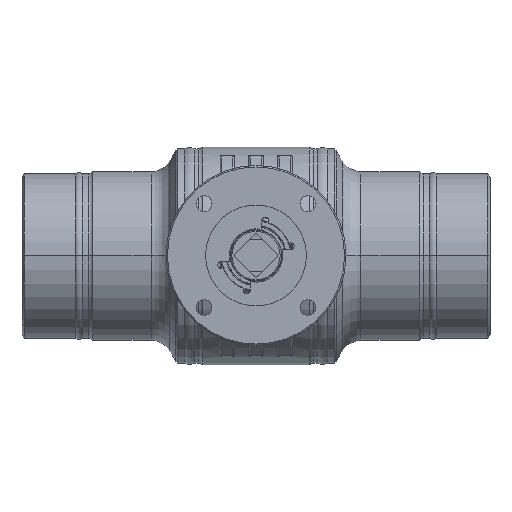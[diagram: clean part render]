
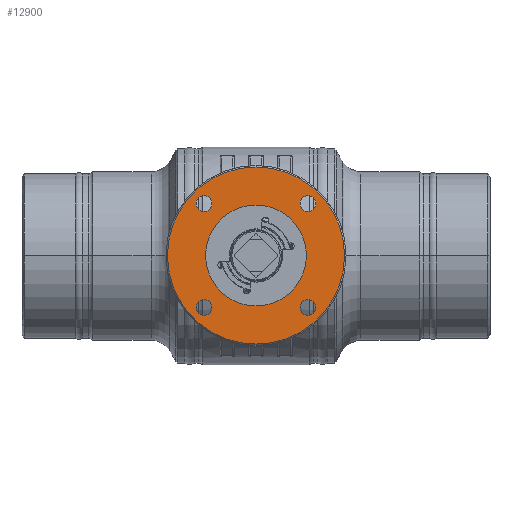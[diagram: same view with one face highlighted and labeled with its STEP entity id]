
A CAD part, top view. The second image highlights one B-rep face of the part: STEP entity #12900.
In plain terms, the highlighted planar face has unit normal (0, 0, 1).
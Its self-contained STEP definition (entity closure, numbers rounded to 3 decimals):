
#2733=CARTESIAN_POINT('',(0.,0.,189.));
#2734=DIRECTION('',(0.,0.,1.));
#2735=DIRECTION('',(0.,1.,0.));
#2736=AXIS2_PLACEMENT_3D('',#2733,#2734,#2735);
#2742=CARTESIAN_POINT('',(0.,0.,189.));
#2743=DIRECTION('',(0.,0.,1.));
#2744=DIRECTION('',(0.,-1.,0.));
#2745=AXIS2_PLACEMENT_3D('',#2742,#2743,#2744);
#2760=CARTESIAN_POINT('',(36.062,-36.062,189.));
#2761=DIRECTION('',(0.,0.,1.));
#2762=DIRECTION('',(0.,-1.,0.));
#2763=AXIS2_PLACEMENT_3D('',#2760,#2761,#2762);
#2765=CARTESIAN_POINT('',(36.062,-36.062,189.));
#2766=DIRECTION('',(0.,0.,1.));
#2767=DIRECTION('',(0.,1.,0.));
#2768=AXIS2_PLACEMENT_3D('',#2765,#2766,#2767);
#2770=CARTESIAN_POINT('',(-36.062,-36.062,189.));
#2771=DIRECTION('',(0.,0.,1.));
#2772=DIRECTION('',(0.,-1.,0.));
#2773=AXIS2_PLACEMENT_3D('',#2770,#2771,#2772);
#2775=CARTESIAN_POINT('',(-36.062,-36.062,189.));
#2776=DIRECTION('',(0.,0.,1.));
#2777=DIRECTION('',(0.,1.,0.));
#2778=AXIS2_PLACEMENT_3D('',#2775,#2776,#2777);
#2780=CARTESIAN_POINT('',(-36.062,36.062,189.));
#2781=DIRECTION('',(0.,0.,1.));
#2782=DIRECTION('',(0.,-1.,0.));
#2783=AXIS2_PLACEMENT_3D('',#2780,#2781,#2782);
#2785=CARTESIAN_POINT('',(-36.062,36.062,189.));
#2786=DIRECTION('',(0.,0.,1.));
#2787=DIRECTION('',(0.,1.,0.));
#2788=AXIS2_PLACEMENT_3D('',#2785,#2786,#2787);
#2790=CARTESIAN_POINT('',(36.062,36.062,189.));
#2791=DIRECTION('',(0.,0.,1.));
#2792=DIRECTION('',(0.,-1.,0.));
#2793=AXIS2_PLACEMENT_3D('',#2790,#2791,#2792);
#2795=CARTESIAN_POINT('',(36.062,36.062,189.));
#2796=DIRECTION('',(0.,0.,1.));
#2797=DIRECTION('',(0.,1.,0.));
#2798=AXIS2_PLACEMENT_3D('',#2795,#2796,#2797);
#2800=CARTESIAN_POINT('',(0.,0.,189.));
#2801=DIRECTION('',(0.,0.,1.));
#2802=DIRECTION('',(0.,-1.,0.));
#2803=AXIS2_PLACEMENT_3D('',#2800,#2801,#2802);
#2805=CARTESIAN_POINT('',(0.,0.,189.));
#2806=DIRECTION('',(0.,0.,1.));
#2807=DIRECTION('',(0.,1.,0.));
#2808=AXIS2_PLACEMENT_3D('',#2805,#2806,#2807);
#6008=CARTESIAN_POINT('',(0.,35.05,189.));
#6009=VERTEX_POINT('',#6008);
#6010=CARTESIAN_POINT('',(0.,-35.05,189.));
#6011=VERTEX_POINT('',#6010);
#6012=CARTESIAN_POINT('',(36.062,-41.562,189.));
#6013=CARTESIAN_POINT('',(36.062,-30.562,189.));
#6014=VERTEX_POINT('',#6012);
#6015=VERTEX_POINT('',#6013);
#6016=CARTESIAN_POINT('',(-36.062,-41.562,189.));
#6017=CARTESIAN_POINT('',(-36.062,-30.562,189.));
#6018=VERTEX_POINT('',#6016);
#6019=VERTEX_POINT('',#6017);
#6020=CARTESIAN_POINT('',(-36.062,30.562,189.));
#6021=CARTESIAN_POINT('',(-36.062,41.562,189.));
#6022=VERTEX_POINT('',#6020);
#6023=VERTEX_POINT('',#6021);
#6024=CARTESIAN_POINT('',(36.062,30.562,189.));
#6025=CARTESIAN_POINT('',(36.062,41.562,189.));
#6026=VERTEX_POINT('',#6024);
#6027=VERTEX_POINT('',#6025);
#6056=CARTESIAN_POINT('',(0.,61.5,189.));
#6057=VERTEX_POINT('',#6056);
#6058=CARTESIAN_POINT('',(0.,-61.5,189.));
#6059=VERTEX_POINT('',#6058);
#12861=CARTESIAN_POINT('',(0.,0.,189.));
#12862=DIRECTION('',(0.,0.,-1.));
#12863=DIRECTION('',(0.,1.,0.));
#12864=AXIS2_PLACEMENT_3D('',#12861,#12862,#12863);
#12865=PLANE('',#12864);
#12866=ORIENTED_EDGE('',*,*,#12828,.F.);
#12867=ORIENTED_EDGE('',*,*,#12843,.F.);
#12868=EDGE_LOOP('',(#12866,#12867));
#12869=FACE_OUTER_BOUND('',#12868,.F.);
#12871=ORIENTED_EDGE('',*,*,#12870,.T.);
#12873=ORIENTED_EDGE('',*,*,#12872,.T.);
#12874=EDGE_LOOP('',(#12871,#12873));
#12875=FACE_BOUND('',#12874,.F.);
#12877=ORIENTED_EDGE('',*,*,#12876,.T.);
#12879=ORIENTED_EDGE('',*,*,#12878,.T.);
#12880=EDGE_LOOP('',(#12877,#12879));
#12881=FACE_BOUND('',#12880,.F.);
#12883=ORIENTED_EDGE('',*,*,#12882,.T.);
#12885=ORIENTED_EDGE('',*,*,#12884,.T.);
#12886=EDGE_LOOP('',(#12883,#12885));
#12887=FACE_BOUND('',#12886,.F.);
#12889=ORIENTED_EDGE('',*,*,#12888,.T.);
#12891=ORIENTED_EDGE('',*,*,#12890,.T.);
#12892=EDGE_LOOP('',(#12889,#12891));
#12893=FACE_BOUND('',#12892,.F.);
#12895=ORIENTED_EDGE('',*,*,#12894,.T.);
#12897=ORIENTED_EDGE('',*,*,#12896,.T.);
#12898=EDGE_LOOP('',(#12895,#12897));
#12899=FACE_BOUND('',#12898,.F.);
#12900=ADVANCED_FACE('',(#12869,#12875,#12881,#12887,#12893,#12899),#12865,.F.);
#2737=CIRCLE('',#2736,61.5);
#2746=CIRCLE('',#2745,61.5);
#2764=CIRCLE('',#2763,5.5);
#2769=CIRCLE('',#2768,5.5);
#2774=CIRCLE('',#2773,5.5);
#2779=CIRCLE('',#2778,5.5);
#2784=CIRCLE('',#2783,5.5);
#2789=CIRCLE('',#2788,5.5);
#2794=CIRCLE('',#2793,5.5);
#2799=CIRCLE('',#2798,5.5);
#2804=CIRCLE('',#2803,35.05);
#2809=CIRCLE('',#2808,35.05);
#12828=EDGE_CURVE('',#6057,#6059,#2737,.T.);
#12843=EDGE_CURVE('',#6059,#6057,#2746,.T.);
#12870=EDGE_CURVE('',#6014,#6015,#2764,.T.);
#12872=EDGE_CURVE('',#6015,#6014,#2769,.T.);
#12876=EDGE_CURVE('',#6018,#6019,#2774,.T.);
#12878=EDGE_CURVE('',#6019,#6018,#2779,.T.);
#12882=EDGE_CURVE('',#6022,#6023,#2784,.T.);
#12884=EDGE_CURVE('',#6023,#6022,#2789,.T.);
#12888=EDGE_CURVE('',#6026,#6027,#2794,.T.);
#12890=EDGE_CURVE('',#6027,#6026,#2799,.T.);
#12894=EDGE_CURVE('',#6011,#6009,#2804,.T.);
#12896=EDGE_CURVE('',#6009,#6011,#2809,.T.);
